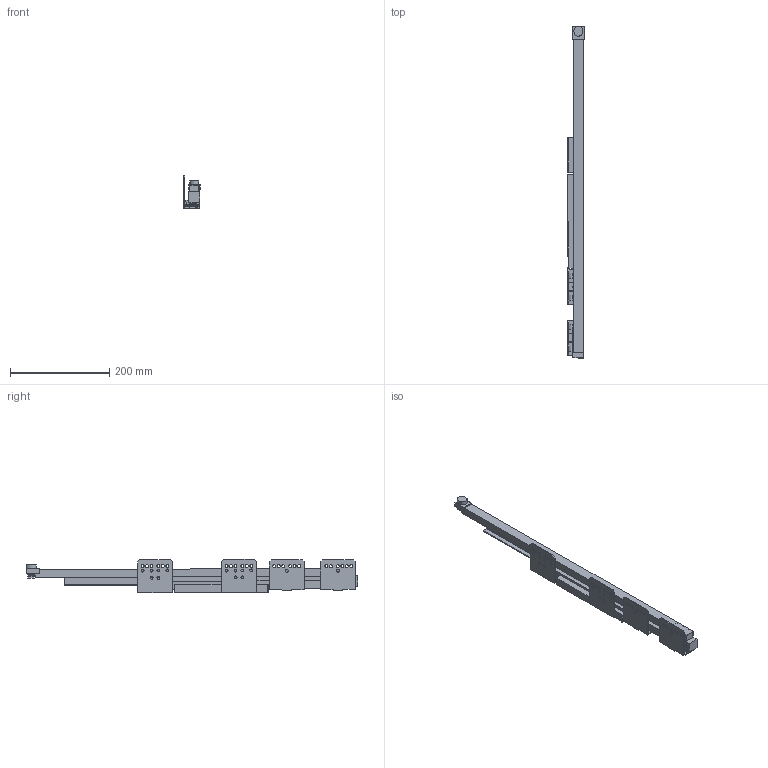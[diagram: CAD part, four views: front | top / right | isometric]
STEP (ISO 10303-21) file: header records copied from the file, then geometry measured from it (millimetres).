
FILE_DESCRIPTION (( 'STEP AP214' ), '1' );
FILE_NAME ('_IMOS Dynamic-XP VA 80kg NL650 LI Tipmatic.step', '2010-07-08T13:27:54', ( 'grass' ), ( '' ), 'SwSTEP 2.0', 'SolidWorks 2010', '' );
FILE_SCHEMA (( 'AUTOMOTIVE_DESIGN' ));
Length unit declared in the file: millimetre
Products named in the file (1): _IMOS Dynamic-XP VA 80kg NL650 LI Tipmatic
Bounding box: 33.14 x 668.02 x 66.67 mm (x, y, z)
Volume: 529032.7 mm3; surface area: 210185.6 mm2
Topology: 10 solids, 10 shells, 280 faces, 772 edges, 514 vertices
Faces by surface type: plane 193, cylinder 87
Entity records: 9171 total; most frequent: CARTESIAN_POINT 1567, ORIENTED_EDGE 1544, DIRECTION 1510, EDGE_CURVE 772, VECTOR 596, LINE 596, VERTEX_POINT 514, AXIS2_PLACEMENT_3D 457
